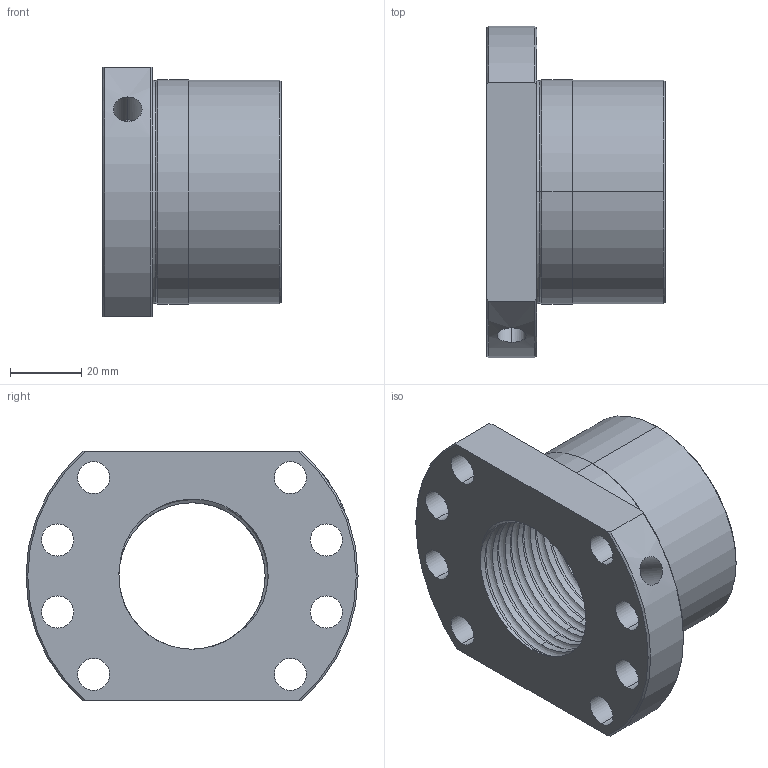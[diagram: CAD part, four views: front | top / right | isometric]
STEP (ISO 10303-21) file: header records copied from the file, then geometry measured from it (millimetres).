
FILE_DESCRIPTION (( 'STEP AP214' ), '1' );
FILE_NAME ('LLE4005-F.STEP', '2020-12-17T06:46:01', ( 'user' ), ( 'datathink' ), 'SwSTEP 2.0', 'SolidWorks 2013', '' );
FILE_SCHEMA (( 'AUTOMOTIVE_DESIGN' ));
Length unit declared in the file: millimetre
Products named in the file (1): LLE4005-F
Bounding box: 50 x 93 x 70 mm (x, y, z)
Volume: 115767.7 mm3; surface area: 30297 mm2
Topology: 1 solids, 1 shells, 71 faces, 193 edges, 125 vertices
Faces by surface type: cylinder 49, cone 8, plane 7, torus 4, bspline 3
Entity records: 6400 total; most frequent: CARTESIAN_POINT 4665, ORIENTED_EDGE 386, DIRECTION 330, EDGE_CURVE 193, AXIS2_PLACEMENT_3D 136, VERTEX_POINT 125, EDGE_LOOP 92, ADVANCED_FACE 71
